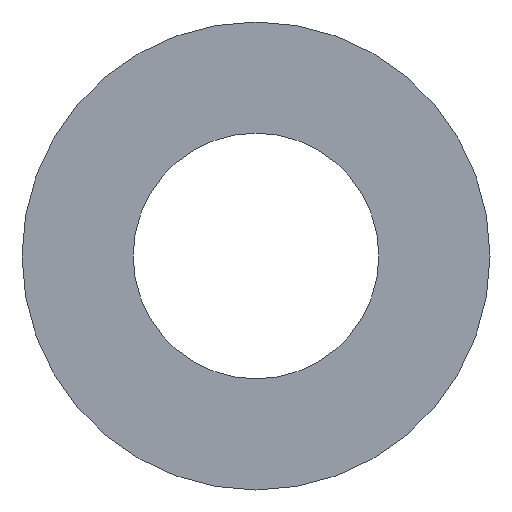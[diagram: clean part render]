
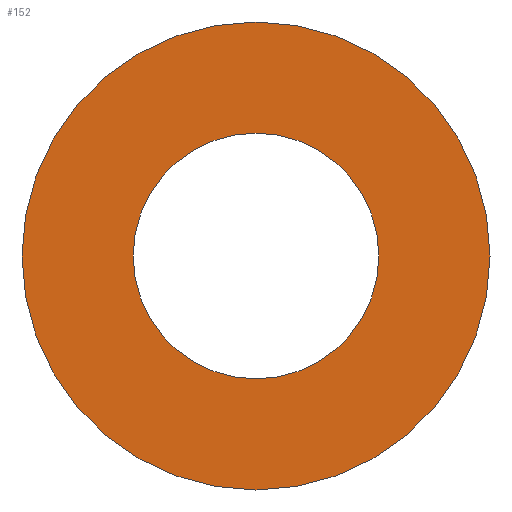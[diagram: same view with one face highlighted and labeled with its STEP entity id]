
A CAD part, left-side view. The second image highlights one B-rep face of the part: STEP entity #152.
In plain terms, the highlighted planar face has unit normal (-1, 0, 0).
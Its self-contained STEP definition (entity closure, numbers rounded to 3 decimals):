
#1 = DIRECTION ( 'NONE',  ( 0., 0., 1. ) ) ;
#2 = CARTESIAN_POINT ( 'NONE',  ( 0., 0., 8. ) ) ;
#16 = DIRECTION ( 'NONE',  ( 0., 0., 1. ) ) ;
#17 = DIRECTION ( 'NONE',  ( -1., 0., 0. ) ) ;
#18 = CARTESIAN_POINT ( 'NONE',  ( 0., 0., 0. ) ) ;
#19 = AXIS2_PLACEMENT_3D ( 'NONE', #18, #17, #16 ) ;
#20 = CIRCLE ( 'NONE', #19, 4.2 ) ;
#21 = DIRECTION ( 'NONE',  ( 0., 0., -1. ) ) ;
#22 = DIRECTION ( 'NONE',  ( 1., 0., 0. ) ) ;
#23 = CARTESIAN_POINT ( 'NONE',  ( 0., 0., -8. ) ) ;
#24 = AXIS2_PLACEMENT_3D ( 'NONE', #23, #22, #21 ) ;
#25 = PLANE ( 'NONE',  #24 ) ;
#26 = FACE_OUTER_BOUND ( 'NONE', #157, .T. ) ;
#27 = FACE_BOUND ( 'NONE', #153, .T. ) ;
#32 = CARTESIAN_POINT ( 'NONE',  ( 0., 0., 4.2 ) ) ;
#33 = DIRECTION ( 'NONE',  ( 0., 0., 1. ) ) ;
#34 = DIRECTION ( 'NONE',  ( -1., 0., 0. ) ) ;
#35 = CARTESIAN_POINT ( 'NONE',  ( 0., 0., 0. ) ) ;
#36 = AXIS2_PLACEMENT_3D ( 'NONE', #35, #34, #33 ) ;
#37 = CIRCLE ( 'NONE', #36, 4.2 ) ;
#38 = CARTESIAN_POINT ( 'NONE',  ( 0., 0., -4.2 ) ) ;
#59 = DIRECTION ( 'NONE',  ( 0., 0., 1. ) ) ;
#60 = DIRECTION ( 'NONE',  ( -1., 0., 0. ) ) ;
#61 = CARTESIAN_POINT ( 'NONE',  ( 0., 0., 0. ) ) ;
#62 = AXIS2_PLACEMENT_3D ( 'NONE', #61, #60, #59 ) ;
#63 = CIRCLE ( 'NONE', #62, 8. ) ;
#132 = VERTEX_POINT ( 'NONE', #175 ) ;
#134 = EDGE_CURVE ( 'NONE', #135, #132, #174, .T. ) ;
#135 = VERTEX_POINT ( 'NONE', #2 ) ;
#146 = VERTEX_POINT ( 'NONE', #38 ) ;
#148 = EDGE_CURVE ( 'NONE', #146, #149, #37, .T. ) ;
#149 = VERTEX_POINT ( 'NONE', #32 ) ;
#152 = ADVANCED_FACE ( 'NONE', ( #27, #26 ), #25, .F. ) ;
#153 = EDGE_LOOP ( 'NONE', ( #154, #156 ) ) ;
#154 = ORIENTED_EDGE ( 'NONE', *, *, #155, .F. ) ;
#155 = EDGE_CURVE ( 'NONE', #149, #146, #20, .T. ) ;
#156 = ORIENTED_EDGE ( 'NONE', *, *, #148, .F. ) ;
#157 = EDGE_LOOP ( 'NONE', ( #158, #159 ) ) ;
#158 = ORIENTED_EDGE ( 'NONE', *, *, #134, .T. ) ;
#159 = ORIENTED_EDGE ( 'NONE', *, *, #165, .T. ) ;
#165 = EDGE_CURVE ( 'NONE', #132, #135, #63, .T. ) ;
#171 = DIRECTION ( 'NONE',  ( -1., 0., 0. ) ) ;
#172 = CARTESIAN_POINT ( 'NONE',  ( 0., 0., 0. ) ) ;
#173 = AXIS2_PLACEMENT_3D ( 'NONE', #172, #171, #1 ) ;
#174 = CIRCLE ( 'NONE', #173, 8. ) ;
#175 = CARTESIAN_POINT ( 'NONE',  ( 0., 0., -8. ) ) ;
